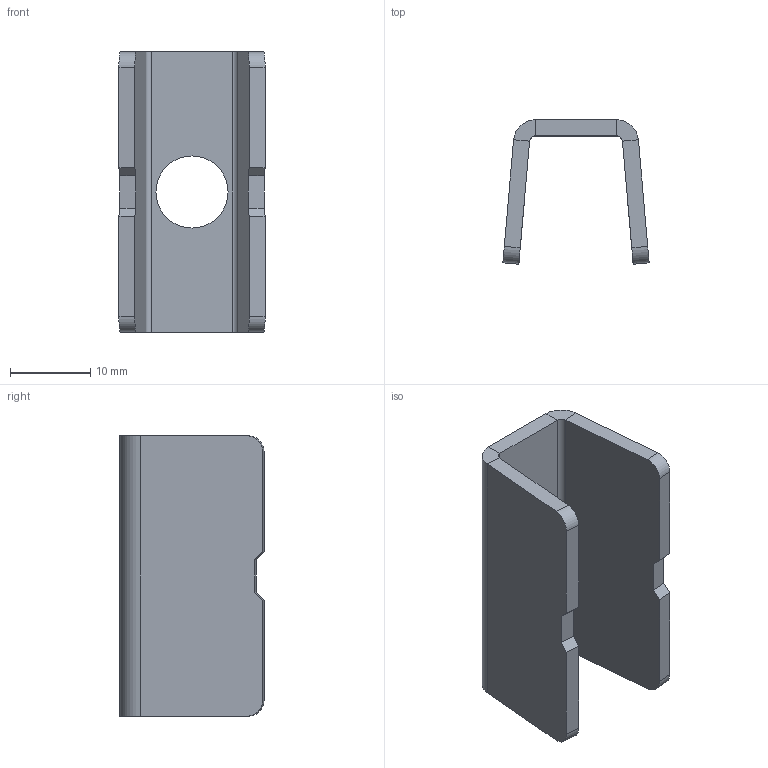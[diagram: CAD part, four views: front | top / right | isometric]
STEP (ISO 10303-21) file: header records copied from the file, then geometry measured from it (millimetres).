
FILE_DESCRIPTION (( 'STEP AP203' ), '1' );
FILE_NAME ('PiezaSoporte_SHO automatización ZZZZ x YYYY.step', '2023-07-28T15:15:48', ( '' ), ( '' ), 'SwSTEP 2.0', 'SolidWorks 2022', '' );
FILE_SCHEMA (( 'CONFIG_CONTROL_DESIGN' ));
Length unit declared in the file: millimetre
Products named in the file (1): PiezaSoporte_SHO automatización ZZZZ x YYYY
Bounding box: 18.25 x 17.98 x 35 mm (x, y, z)
Volume: 3065.9 mm3; surface area: 3442.9 mm2
Topology: 1 solids, 1 shells, 36 faces, 86 edges, 52 vertices
Faces by surface type: plane 26, cylinder 10
Entity records: 1103 total; most frequent: DIRECTION 180, CARTESIAN_POINT 175, ORIENTED_EDGE 172, EDGE_CURVE 86, LINE 66, VECTOR 66, AXIS2_PLACEMENT_3D 57, VERTEX_POINT 52
